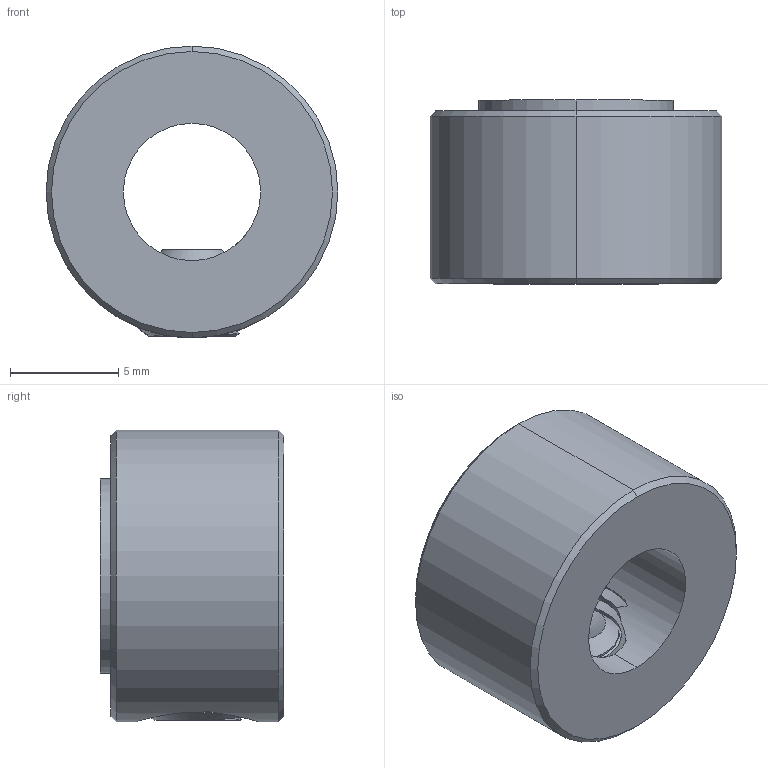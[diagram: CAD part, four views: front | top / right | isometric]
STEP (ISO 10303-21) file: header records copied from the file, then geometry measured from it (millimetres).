
FILE_DESCRIPTION (( 'STEP AP203' ), '1' );
FILE_NAME ('2920-0001-0250 assembly.STEP', '2021-02-19T22:35:19', ( '' ), ( '' ), 'SwSTEP 2.0', 'SolidWorks 2016', '' );
FILE_SCHEMA (( 'CONFIG_CONTROL_DESIGN' ));
Length unit declared in the file: millimetre
Products named in the file (3): 2806-0005-0004_91390A117; 2920-0001-0250; 2920-0001-0250 assembly
Assembly tree (2 placements, depth 2):
  2920-0001-0250 assembly
    2920-0001-0250
    2806-0005-0004_91390A117
Bounding box: 13.5 x 8.5 x 13.5 mm (x, y, z)
Volume: 890.5 mm3; surface area: 903.5 mm2
Topology: 2 solids, 2 shells, 86 faces, 225 edges, 139 vertices
Faces by surface type: cylinder 38, cone 22, plane 16, bspline 10
Entity records: 6608 total; most frequent: CARTESIAN_POINT 4522, ORIENTED_EDGE 442, DIRECTION 305, EDGE_CURVE 221, VERTEX_POINT 139, AXIS2_PLACEMENT_3D 119, EDGE_LOOP 90, FACE_OUTER_BOUND 86
